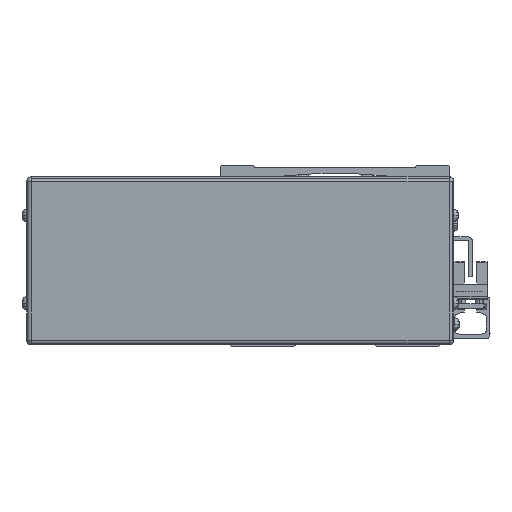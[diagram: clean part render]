
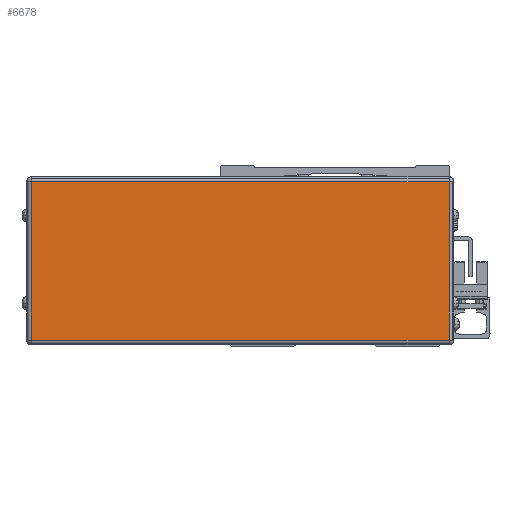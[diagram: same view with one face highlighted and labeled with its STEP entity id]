
A CAD part, front view. The second image highlights one B-rep face of the part: STEP entity #6678.
In plain terms, the highlighted planar face has unit normal (0, -1, 0).
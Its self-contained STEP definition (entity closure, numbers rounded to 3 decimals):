
#6678=ADVANCED_FACE('',(#13637),#13638,.F.);
#13637=FACE_OUTER_BOUND('',#22118,.T.);
#13638=PLANE('',#22119);
#22118=EDGE_LOOP('',(#41879,#41880,#41881,#41882));
#22119=AXIS2_PLACEMENT_3D('',#41883,#41884,#41885);
#41879=ORIENTED_EDGE('',*,*,#44687,.T.);
#41880=ORIENTED_EDGE('',*,*,#46234,.T.);
#41881=ORIENTED_EDGE('',*,*,#48067,.T.);
#41882=ORIENTED_EDGE('',*,*,#52381,.T.);
#41883=CARTESIAN_POINT('',(-39.,61.222,-42.5));
#41884=DIRECTION('',(0.0,1.0,-0.0));
#41885=DIRECTION('',(-1.0,0.0,0.0));
#44687=EDGE_CURVE('',#53070,#53068,#53071,.T.);
#46234=EDGE_CURVE('',#53068,#55796,#55798,.T.);
#48067=EDGE_CURVE('',#55796,#58819,#58821,.T.);
#52381=EDGE_CURVE('',#58819,#53070,#64614,.T.);
#53068=VERTEX_POINT('',#65373);
#53070=VERTEX_POINT('',#65375);
#53071=LINE('',#65376,#65377);
#55796=VERTEX_POINT('',#69174);
#55798=LINE('',#69176,#69177);
#58819=VERTEX_POINT('',#73616);
#58821=LINE('',#73618,#73619);
#64614=LINE('',#82493,#82494);
#65373=CARTESIAN_POINT('',(46.7,61.222,-40.5));
#65375=CARTESIAN_POINT('',(-124.7,61.222,-40.5));
#65376=CARTESIAN_POINT('',(-39.,61.222,-40.5));
#65377=VECTOR('',#83283,10.0);
#69174=CARTESIAN_POINT('',(46.7,61.222,24.5));
#69176=CARTESIAN_POINT('',(46.7,61.222,-42.5));
#69177=VECTOR('',#85303,10.0);
#73616=CARTESIAN_POINT('',(-124.7,61.222,24.5));
#73618=CARTESIAN_POINT('',(-39.,61.222,24.5));
#73619=VECTOR('',#87572,10.0);
#82493=CARTESIAN_POINT('',(-124.7,61.222,-42.5));
#82494=VECTOR('',#92110,10.0);
#83283=DIRECTION('',(1.0,0.0,0.0));
#85303=DIRECTION('',(0.0,0.0,1.0));
#87572=DIRECTION('',(-1.0,0.0,0.0));
#92110=DIRECTION('',(-0.0,0.0,-1.0));
